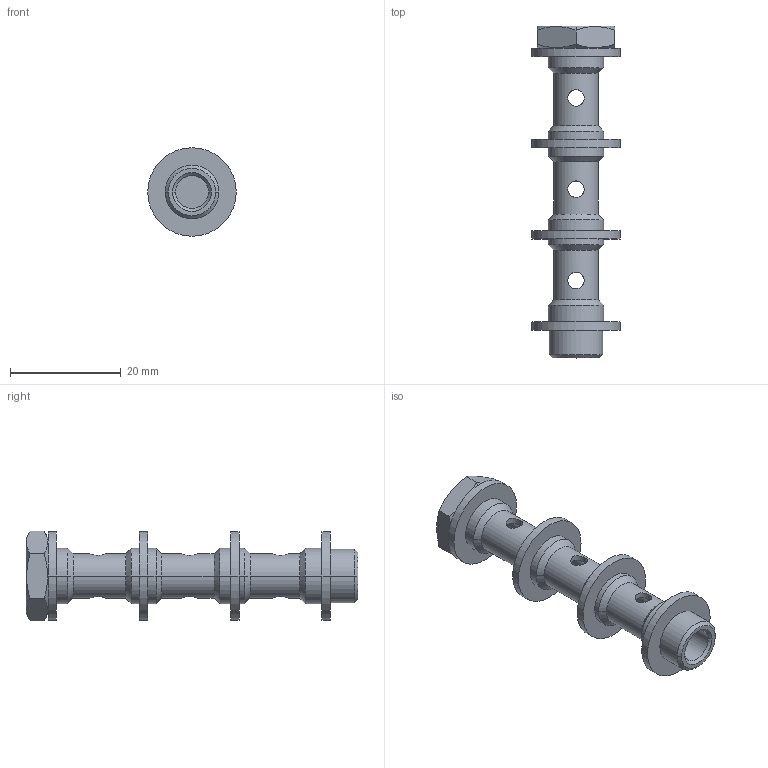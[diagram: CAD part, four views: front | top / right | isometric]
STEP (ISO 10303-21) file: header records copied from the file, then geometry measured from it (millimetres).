
FILE_DESCRIPTION((''),'2;1');
FILE_NAME('1823462065','2015-09-17T',('vol1hc'),(''),'PRO/ENGINEER BY PARAMETRIC TECHNOLOGY CORPORATION, 2012421','PRO/ENGINEER BY PARAMETRIC TECHNOLOGY CORPORATION, 2012421','');
FILE_SCHEMA(('CONFIG_CONTROL_DESIGN','SHAPE_APPEARANCE_LAYERS_GROUPS'));
Length unit declared in the file: millimetre
Products named in the file (1): 1823462065
Bounding box: 16 x 60 x 16.17 mm (x, y, z)
Volume: 3267.6 mm3; surface area: 4110 mm2
Topology: 1 solids, 1 shells, 79 faces, 172 edges, 104 vertices
Faces by surface type: cylinder 42, cone 20, plane 17
Entity records: 3144 total; most frequent: CARTESIAN_POINT 1351, DIRECTION 362, ORIENTED_EDGE 344, EDGE_CURVE 172, AXIS2_PLACEMENT_3D 147, VERTEX_POINT 104, EDGE_LOOP 100, FACE_OUTER_BOUND 79
